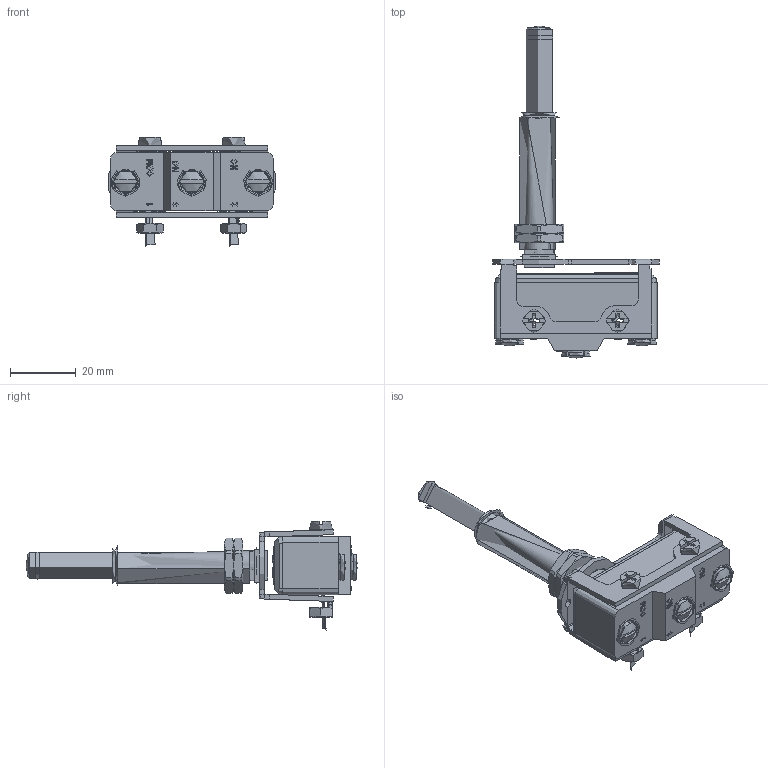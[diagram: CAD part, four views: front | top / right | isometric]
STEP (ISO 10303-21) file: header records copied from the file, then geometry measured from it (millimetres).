
FILE_DESCRIPTION((''),'2; 1');
FILE_NAME('','2026-03-27T16:28:10',(''),(''),'CST STEP Exporter V1.0','Unknown','');
FILE_SCHEMA(('CONFIG_CONTROL_DESIGN'));
Length unit declared in the file: metre
Assembly tree (25 placements, depth 2):
  (unnamed)
    (unnamed)
    (unnamed)
    (unnamed)
    (unnamed)
    (unnamed)
    (unnamed)
    (unnamed)
    (unnamed)
    (unnamed)
    (unnamed)
    (unnamed)
    (unnamed)
    (unnamed)
    (unnamed)
    (unnamed)
    (unnamed)
    (unnamed)
    (unnamed)
    (unnamed)
    (unnamed)
    (unnamed)
    (unnamed)
    (unnamed)
    (unnamed)
    (unnamed)
Bounding box: 50.69 x 100.83 x 33.21 mm (x, y, z)
Topology: 0 solids, 35 shells, 519 faces, 1737 edges, 1219 vertices
Faces by surface type: plane 285, cylinder 81, extrusion 50, bspline 39, cone 29, torus 28, revolution 6, sphere 1
Full cylindrical faces by diameter (mm): 2.8 x2, 4 x2, 6.9 x3, 8.1 x2, 8.3 x1, 9.2 x1, 10.8 x1, 12.3 x2, 12.6 x1, 14 x1
Entity records: 41266 total; most frequent: CARTESIAN_POINT 22955, ORIENTED_EDGE 2857, DIRECTION 2420, EDGE_CURVE 1709, VERTEX_POINT 1201, VECTOR 1091, LINE 1041, AXIS2_PLACEMENT_3D 663
